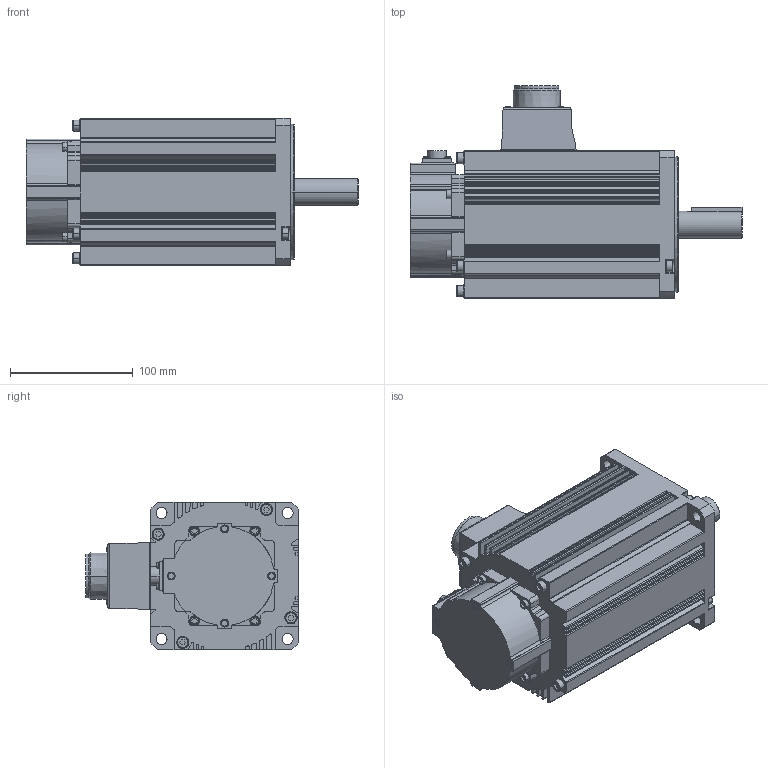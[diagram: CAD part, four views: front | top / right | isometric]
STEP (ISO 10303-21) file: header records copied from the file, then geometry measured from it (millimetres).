
FILE_DESCRIPTION( ( '' ), '1' );
FILE_NAME( '//expscmdclustefs.cadenas.external/client_exchange/iodir/jobs/output/wkb64901258_no0/STEP/MSME304G1H_1__2_03.stp', '2013-10-30T12:21:22', ( '' ), ( '' ), ' ', ' ', ' ' );
FILE_SCHEMA( ( 'CONFIG_CONTROL_DESIGN' ) );
Length unit declared in the file: millimetre
Products named in the file (1): 1
Bounding box: 270 x 173 x 120 mm (x, y, z)
Volume: 2589506.4 mm3; surface area: 173295.3 mm2
Topology: 1 solids, 1 shells, 703 faces, 1896 edges, 1244 vertices
Faces by surface type: plane 314, cylinder 301, cone 44, torus 40, sphere 4
Entity records: 22578 total; most frequent: CARTESIAN_POINT 4202, DIRECTION 4036, ORIENTED_EDGE 3776, EDGE_CURVE 1888, AXIS2_PLACEMENT_3D 1480, VERTEX_POINT 1244, LINE 1076, VECTOR 1076
